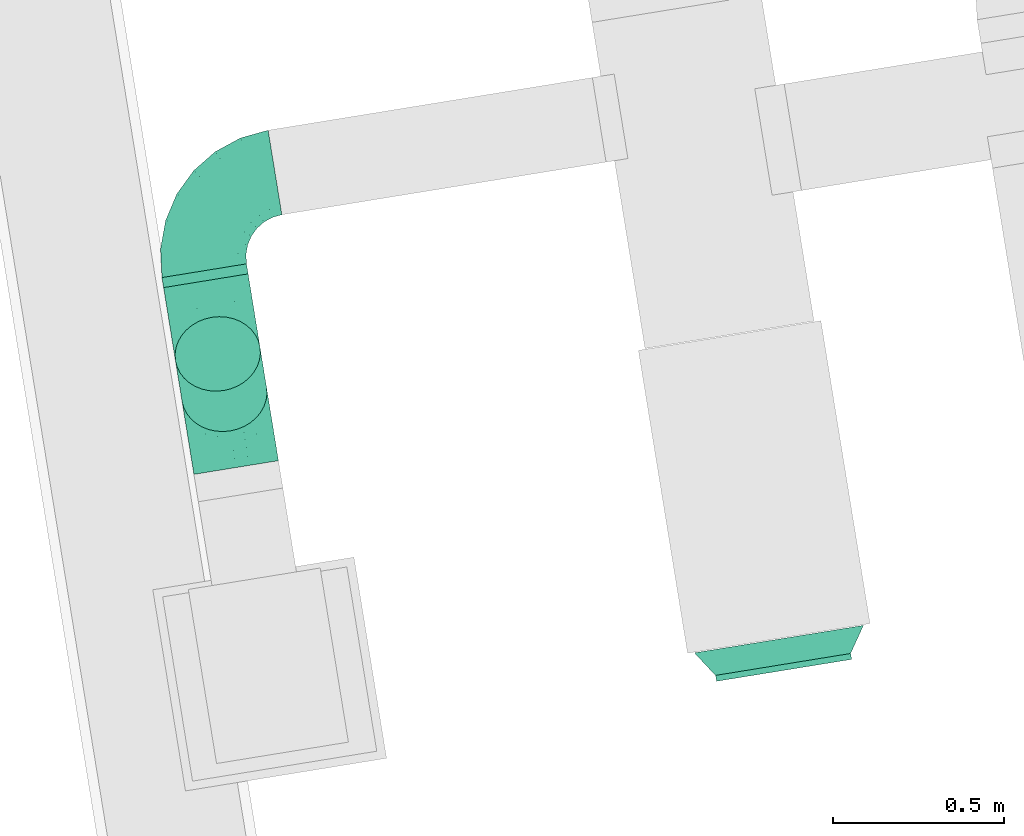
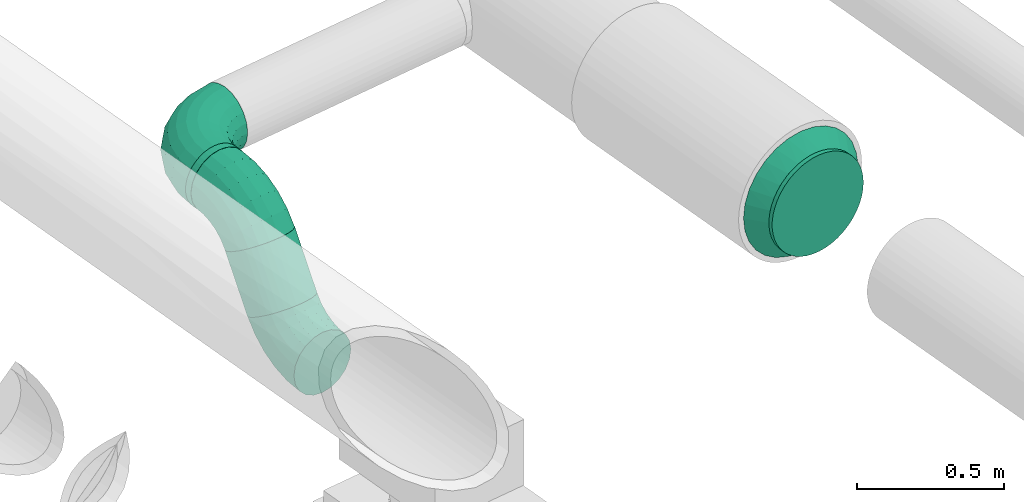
# One storey, part 21 of 39: 4 flow fittings, 3 flow segments.
"""IFC2X3 building model written with IfcOpenShell, lengths in millimetres."""

from ifc_helpers import new_model, entity, si_unit, converted_unit, derived_unit, direction, frame, frame_2d, origin, origin_with_axes, origin_2d_with_axis, place, context, subcontext, project, spatial, circle, extrude, faceted_brep, source, transform, mapped, material, type_object, element, save


model = new_model("IFC2X3")

# Units and contexts
plan_context = context("Plan", 3, precision=1e-05, world=origin_with_axes())
model_context = context("Model", 3, precision=0.01, world=origin(), true_north=direction((6.12323399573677e-17, 1.0)))
body_context = subcontext(model_context, "Body", "Model", "MODEL_VIEW")
ifc_project = project(units=[converted_unit("PLANEANGLEUNIT", "DEGREE", entity("IfcPositiveLengthMeasure", 0.0174532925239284), si_unit("PLANEANGLEUNIT", "RADIAN"), dimensions=[0, 0, 0, 0, 0, 0, 0]), si_unit("AREAUNIT", "SQUARE_METRE"), si_unit("LENGTHUNIT", "METRE", prefix="MILLI"), si_unit("MASSUNIT", "GRAM", prefix="KILO"), si_unit("POWERUNIT", "WATT"), si_unit("PRESSUREUNIT", "PASCAL", prefix="KILO"), si_unit("FORCEUNIT", "NEWTON", prefix="KILO"), si_unit("ELECTRICVOLTAGEUNIT", "VOLT"), si_unit("ELECTRICCURRENTUNIT", "AMPERE"), si_unit("THERMODYNAMICTEMPERATUREUNIT", "DEGREE_CELSIUS"), si_unit("TIMEUNIT", "SECOND"), si_unit("VOLUMEUNIT", "CUBIC_METRE"), derived_unit("LINEARVELOCITYUNIT", [(si_unit("LENGTHUNIT", "METRE"), 1), (si_unit("TIMEUNIT", "SECOND"), -1)]), derived_unit("VOLUMETRICFLOWRATEUNIT", [(si_unit("VOLUMEUNIT", "CUBIC_METRE"), 1), (si_unit("TIMEUNIT", "SECOND"), -1)]), derived_unit("THERMALTRANSMITTANCEUNIT", [(si_unit("POWERUNIT", "WATT"), 1), (si_unit("THERMODYNAMICTEMPERATUREUNIT", "KELVIN"), -1), (si_unit("AREAUNIT", "SQUARE_METRE"), -1)]), derived_unit("SOUNDPRESSUREUNIT", [(si_unit("PRESSUREUNIT", "PASCAL"), 1)])], contexts=[model_context, plan_context])

# Site, building, storey
site_placement = place(None, frame((-0.00071070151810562, 0.00438415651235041, 0.0), z_axis=(0.0, 0.0, 1.0), x_axis=(-0.160236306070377, 0.987078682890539, 0.0)))
site = spatial("IfcSite", under=ifc_project, at=site_placement, Name="Default", CompositionType="ELEMENT")
building_placement = place(site_placement, origin_with_axes())
building = spatial("IfcBuilding", under=site, at=building_placement, CompositionType="ELEMENT")
storey_placement = place(building_placement, frame((0.0, 0.0, 58999.9999999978), z_axis=(0.0, 0.0, 1.0), x_axis=(1.0, 0.0, 0.0)))
storey = spatial("IfcBuildingStorey", under=building, at=storey_placement, Name="Nivå F", CompositionType="ELEMENT", Elevation=58999.9999999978)

# Flow fittings
ifc_material_1 = material(Name="<Unnamed>")
duct_fitting_type_1 = type_object("IfcDuctFittingType", Name="magicirc_elbow_full_radius_1:magicirc_elbow_full_radius_001", PredefinedType="NOTDEFINED", material=ifc_material_1)
shared_shape_1 = source(origin(), body_context, "Body", "Brep", [
    faceted_brep([(-166.554649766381, -115.597967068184, 0.0), (-167.916018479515, -109.633421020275, 38.6271242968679), (-250.0, -118.882064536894, 38.6271242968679), (-250.0, -125.0, 0.0), (-171.866864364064, -92.3236342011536, 73.4731565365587), (-250.0, -101.127124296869, 73.4731565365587), (-178.020451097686, -65.363009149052, 101.127124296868), (-250.0, -73.4731565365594, 101.127124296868), (-185.774422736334, -31.3906396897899, 118.882064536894), (-250.0, -38.6271242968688, 118.882064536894), (-194.36976651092, 6.26802195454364, 125.0), (-250.0, 0.0, 125.0), (-202.965110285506, 43.9266835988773, 118.882064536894), (-250.0, 38.6271242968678, 118.882064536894), (-210.719081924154, 77.8990530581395, 101.127124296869), (-250.0, 73.4731565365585, 101.127124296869), (-216.872668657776, 104.859678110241, 73.4731565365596), (-250.0, 101.127124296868, 73.4731565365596), (-220.823514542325, 122.169464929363, 38.6271242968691), (-250.0, 118.882064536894, 38.6271242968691), (-222.18488325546, 128.134010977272, 0.0), (-250.0, 125.0, 0.0), (-220.823514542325, 122.169464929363, -38.6271242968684), (-250.0, 118.882064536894, -38.6271242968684), (-216.872668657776, 104.859678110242, -73.473156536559), (-250.0, 101.127124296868, -73.473156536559), (-210.719081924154, 77.8990530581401, -101.127124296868), (-250.0, 73.4731565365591, -101.127124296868), (-202.965110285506, 43.926683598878, -118.882064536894), (-250.0, 38.6271242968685, -118.882064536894), (-194.36976651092, 6.26802195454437, -125.0), (-250.0, 0.0, -125.0), (-185.774422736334, -31.3906396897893, -118.882064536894), (-250.0, -38.6271242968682, -118.882064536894), (-178.020451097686, -65.3630091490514, -101.127124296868), (-250.0, -73.4731565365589, -101.127124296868), (-171.866864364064, -92.3236342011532, -73.4731565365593), (-250.0, -101.127124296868, -73.4731565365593), (-167.916018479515, -109.633421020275, -38.6271242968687), (-250.0, -118.882064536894, -38.6271242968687), (-87.2935978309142, -87.8633254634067, 0.0), (-89.9480705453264, -82.3512560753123, 38.6271242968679), (-97.6516504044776, -66.3546076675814, 73.4731565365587), (-109.650257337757, -41.4392436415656, 101.127124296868), (-124.769384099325, -10.0440534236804, 118.882064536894), (-141.529065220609, 24.7577830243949, 125.0), (-158.288746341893, 59.5596194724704, 118.882064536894), (-173.407873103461, 90.9548096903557, 101.127124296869), (-185.406480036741, 115.870173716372, 73.4731565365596), (-193.110059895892, 131.866822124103, 38.6271242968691), (-195.764532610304, 137.378891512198, 0.0), (-193.110059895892, 131.866822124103, -38.6271242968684), (-185.406480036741, 115.870173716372, -73.473156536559), (-173.407873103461, 90.9548096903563, -101.127124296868), (-158.288746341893, 59.5596194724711, -118.882064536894), (-141.529065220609, 24.7577830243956, -125.0), (-124.769384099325, -10.0440534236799, -118.882064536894), (-109.650257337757, -41.4392436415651, -101.127124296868), (-97.6516504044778, -66.354607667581, -73.4731565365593), (-89.9480705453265, -82.3512560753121, -38.6271242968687), (-16.1913243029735, -43.1868059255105, 0.0), (-20.0057946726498, -38.4036113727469, 38.6271242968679), (-31.0758188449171, -24.5222401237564, 73.4731565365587), (-48.3177857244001, -2.90149751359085, 101.127124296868), (-70.0439314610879, 24.3422275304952, 118.882064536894), (-94.127549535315, 54.5421293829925, 125.0), (-118.211167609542, 84.7420312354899, 118.882064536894), (-139.93731334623, 111.985756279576, 101.127124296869), (-157.179280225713, 133.606498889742, 73.4731565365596), (-168.249304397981, 147.487870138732, 38.6271242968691), (-172.063774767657, 152.271064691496, 0.0), (-168.249304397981, 147.487870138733, -38.6271242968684), (-157.179280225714, 133.606498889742, -73.473156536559), (-139.937313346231, 111.985756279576, -101.127124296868), (-118.211167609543, 84.7420312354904, -118.882064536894), (-94.1275495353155, 54.5421293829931, -125.0), (-70.0439314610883, 24.3422275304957, -118.882064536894), (-48.3177857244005, -2.9014975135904, -101.127124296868), (-31.0758188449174, -24.5222401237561, -73.4731565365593), (-20.00579467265, -38.4036113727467, -38.6271242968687), (43.1868059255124, 16.1913243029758, 0.0), (38.4036113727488, 20.005794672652, 38.6271242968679), (24.5222401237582, 31.0758188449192, 73.4731565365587), (2.9014975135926, 48.3177857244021, 101.127124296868), (-24.3422275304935, 70.0439314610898, 118.882064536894), (-54.5421293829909, 94.1275495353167, 125.0), (-84.7420312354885, 118.211167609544, 118.882064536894), (-111.985756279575, 139.937313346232, 101.127124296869), (-133.60649888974, 157.179280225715, 73.4731565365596), (-147.487870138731, 168.249304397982, 38.6271242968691), (-152.271064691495, 172.063774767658, 0.0), (-147.487870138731, 168.249304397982, -38.6271242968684), (-133.606498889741, 157.179280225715, -73.473156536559), (-111.985756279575, 139.937313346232, -101.127124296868), (-84.742031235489, 118.211167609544, -118.882064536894), (-54.5421293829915, 94.1275495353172, -125.0), (-24.342227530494, 70.0439314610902, -118.882064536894), (2.90149751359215, 48.3177857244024, -101.127124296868), (24.5222401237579, 31.0758188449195, -73.4731565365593), (38.4036113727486, 20.0057946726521, -38.6271242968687), (87.8633254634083, 87.2935978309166, 0.0), (82.3512560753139, 89.9480705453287, 38.6271242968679), (66.3546076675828, 97.6516504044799, 73.4731565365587), (41.4392436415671, 109.650257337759, 101.127124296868), (10.0440534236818, 124.769384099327, 118.882064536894), (-24.7577830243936, 141.529065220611, 125.0), (-59.5596194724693, 158.288746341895, 118.882064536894), (-90.9548096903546, 173.407873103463, 101.127124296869), (-115.870173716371, 185.406480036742, 73.4731565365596), (-131.866822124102, 193.110059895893, 38.6271242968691), (-137.378891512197, 195.764532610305, 0.0), (-131.866822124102, 193.110059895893, -38.6271242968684), (-115.870173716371, 185.406480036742, -73.473156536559), (-90.9548096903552, 173.407873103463, -101.127124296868), (-59.5596194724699, 158.288746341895, -118.882064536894), (-24.7577830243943, 141.529065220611, -125.0), (10.0440534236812, 124.769384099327, -118.882064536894), (41.4392436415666, 109.650257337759, -101.127124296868), (66.3546076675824, 97.65165040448, -73.4731565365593), (82.3512560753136, 89.9480705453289, -38.6271242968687), (115.597967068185, 166.554649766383, 0.0), (109.633421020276, 167.916018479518, 38.6271242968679), (92.3236342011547, 171.866864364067, 73.4731565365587), (65.3630091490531, 178.020451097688, 101.127124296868), (31.390639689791, 185.774422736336, 118.882064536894), (-6.26802195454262, 194.369766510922, 125.0), (-43.9266835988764, 202.965110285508, 118.882064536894), (-77.8990530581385, 210.719081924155, 101.127124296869), (-104.85967811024, 216.872668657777, 73.4731565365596), (-122.169464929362, 220.823514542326, 38.6271242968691), (-128.134010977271, 222.184883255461, 0.0), (-122.169464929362, 220.823514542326, -38.6271242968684), (-104.859678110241, 216.872668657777, -73.473156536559), (-77.8990530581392, 210.719081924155, -101.127124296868), (-43.926683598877, 202.965110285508, -118.882064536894), (-6.26802195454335, 194.369766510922, -125.0), (31.3906396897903, 185.774422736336, -118.882064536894), (65.3630091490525, 178.020451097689, -101.127124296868), (92.3236342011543, 171.866864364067, -73.4731565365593), (109.633421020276, 167.916018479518, -38.6271242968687), (125.0, 250.0, 0.0), (118.882064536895, 250.0, 38.6271242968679), (101.127124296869, 250.0, 73.4731565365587), (73.4731565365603, 250.0, 101.127124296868), (38.6271242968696, 250.0, 118.882064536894), (0.0, 250.0, 125.0), (-38.627124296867, 250.0, 118.882064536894), (-73.4731565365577, 250.0, 101.127124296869), (-101.127124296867, 250.0, 73.4731565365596), (-118.882064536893, 250.0, 38.6271242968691), (-125.0, 250.0, 0.0), (-118.882064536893, 250.0, -38.6271242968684), (-101.127124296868, 250.0, -73.473156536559), (-73.4731565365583, 250.0, -101.127124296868), (-38.6271242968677, 250.0, -118.882064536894), (0.0, 250.0, -125.0), (38.627124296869, 250.0, -118.882064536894), (73.4731565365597, 250.0, -101.127124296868), (101.127124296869, 250.0, -73.4731565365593), (118.882064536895, 250.0, -38.6271242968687)], [[[0, 1, 2, 3]], [[1, 4, 5, 2]], [[4, 6, 7, 5]], [[6, 8, 9, 7]], [[8, 10, 11, 9]], [[10, 12, 13, 11]], [[12, 14, 15, 13]], [[14, 16, 17, 15]], [[16, 18, 19, 17]], [[18, 20, 21, 19]], [[20, 22, 23, 21]], [[22, 24, 25, 23]], [[24, 26, 27, 25]], [[26, 28, 29, 27]], [[28, 30, 31, 29]], [[30, 32, 33, 31]], [[32, 34, 35, 33]], [[34, 36, 37, 35]], [[36, 38, 39, 37]], [[38, 0, 3, 39]], [[40, 41, 1, 0]], [[41, 42, 4, 1]], [[42, 43, 6, 4]], [[43, 44, 8, 6]], [[44, 45, 10, 8]], [[45, 46, 12, 10]], [[46, 47, 14, 12]], [[47, 48, 16, 14]], [[48, 49, 18, 16]], [[49, 50, 20, 18]], [[50, 51, 22, 20]], [[51, 52, 24, 22]], [[52, 53, 26, 24]], [[53, 54, 28, 26]], [[54, 55, 30, 28]], [[55, 56, 32, 30]], [[56, 57, 34, 32]], [[57, 58, 36, 34]], [[58, 59, 38, 36]], [[59, 40, 0, 38]], [[60, 61, 41, 40]], [[61, 62, 42, 41]], [[62, 63, 43, 42]], [[63, 64, 44, 43]], [[64, 65, 45, 44]], [[65, 66, 46, 45]], [[66, 67, 47, 46]], [[67, 68, 48, 47]], [[68, 69, 49, 48]], [[69, 70, 50, 49]], [[70, 71, 51, 50]], [[71, 72, 52, 51]], [[72, 73, 53, 52]], [[73, 74, 54, 53]], [[74, 75, 55, 54]], [[75, 76, 56, 55]], [[76, 77, 57, 56]], [[77, 78, 58, 57]], [[78, 79, 59, 58]], [[79, 60, 40, 59]], [[80, 81, 61, 60]], [[81, 82, 62, 61]], [[82, 83, 63, 62]], [[83, 84, 64, 63]], [[84, 85, 65, 64]], [[85, 86, 66, 65]], [[86, 87, 67, 66]], [[87, 88, 68, 67]], [[88, 89, 69, 68]], [[89, 90, 70, 69]], [[90, 91, 71, 70]], [[91, 92, 72, 71]], [[92, 93, 73, 72]], [[93, 94, 74, 73]], [[94, 95, 75, 74]], [[95, 96, 76, 75]], [[96, 97, 77, 76]], [[97, 98, 78, 77]], [[98, 99, 79, 78]], [[99, 80, 60, 79]], [[100, 101, 81, 80]], [[101, 102, 82, 81]], [[102, 103, 83, 82]], [[103, 104, 84, 83]], [[104, 105, 85, 84]], [[105, 106, 86, 85]], [[106, 107, 87, 86]], [[107, 108, 88, 87]], [[108, 109, 89, 88]], [[109, 110, 90, 89]], [[110, 111, 91, 90]], [[111, 112, 92, 91]], [[112, 113, 93, 92]], [[113, 114, 94, 93]], [[114, 115, 95, 94]], [[115, 116, 96, 95]], [[116, 117, 97, 96]], [[117, 118, 98, 97]], [[118, 119, 99, 98]], [[119, 100, 80, 99]], [[120, 121, 101, 100]], [[121, 122, 102, 101]], [[122, 123, 103, 102]], [[123, 124, 104, 103]], [[124, 125, 105, 104]], [[125, 126, 106, 105]], [[126, 127, 107, 106]], [[127, 128, 108, 107]], [[128, 129, 109, 108]], [[129, 130, 110, 109]], [[130, 131, 111, 110]], [[131, 132, 112, 111]], [[132, 133, 113, 112]], [[133, 134, 114, 113]], [[134, 135, 115, 114]], [[135, 136, 116, 115]], [[136, 137, 117, 116]], [[137, 138, 118, 117]], [[138, 139, 119, 118]], [[139, 120, 100, 119]], [[140, 141, 121, 120]], [[141, 142, 122, 121]], [[142, 143, 123, 122]], [[143, 144, 124, 123]], [[144, 145, 125, 124]], [[145, 146, 126, 125]], [[146, 147, 127, 126]], [[147, 148, 128, 127]], [[148, 149, 129, 128]], [[149, 150, 130, 129]], [[150, 151, 131, 130]], [[151, 152, 132, 131]], [[152, 153, 133, 132]], [[153, 154, 134, 133]], [[154, 155, 135, 134]], [[155, 156, 136, 135]], [[156, 157, 137, 136]], [[157, 158, 138, 137]], [[158, 159, 139, 138]], [[159, 140, 120, 139]], [[3, 2, 5, 7, 9, 11, 13, 15, 17, 19, 21, 23, 25, 27, 29, 31, 33, 35, 37, 39]], [[159, 158, 157, 156, 155, 154, 153, 152, 151, 150, 149, 148, 147, 146, 145, 144, 143, 142, 141, 140]]]),
])
flow_fitting_1_placement = place(storey_placement, frame((778138.293172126, -503645.980498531, 3130.0), z_axis=(0.0, 0.0, 1.0), x_axis=(0.0, 1.0, 0.0)))
element("IfcFlowFitting", 1, at=flow_fitting_1_placement, inside=storey, type_object=duct_fitting_type_1, material=ifc_material_1, Name="magicirc_elbow_full_radius_1:magicirc_elbow_full_radius_001", ObjectType="magicirc_elbow_full_radius_1:magicirc_elbow_full_radius_001", context=body_context, shape_type="MappedRepresentation", body=[
    mapped(shared_shape_1, transform((0.0, 0.0, 0.0), scale=1.0)),
])
duct_fitting_type_2 = type_object("IfcDuctFittingType", Name="magicirc_elbow_full_radius_1:magicirc_elbow_full_radius_001", PredefinedType="NOTDEFINED", material=ifc_material_1)
shared_shape_2 = source(origin(), body_context, "Body", "Brep", [
    faceted_brep([(-66.3706832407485, -116.805350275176, 0.0), (-67.6426735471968, -110.821106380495, 38.627124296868), (-144.337567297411, -118.882064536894, 38.627124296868), (-144.337567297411, -125.0, 0.0), (-71.334133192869, -93.4541541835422, 73.4731565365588), (-144.337567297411, -101.127124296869, 73.4731565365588), (-77.0837163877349, -66.4044919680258, 101.127124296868), (-144.337567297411, -73.4731565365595, 101.127124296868), (-84.3286138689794, -32.3199291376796, 118.882064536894), (-144.337567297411, -38.6271242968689, 118.882064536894), (-92.3596445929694, 5.46309981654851, 125.0), (-144.337567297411, 0.0, 125.0), (-100.390675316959, 43.2461287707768, 118.882064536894), (-144.337567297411, 38.6271242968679, 118.882064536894), (-107.635572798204, 77.330691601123, 101.127124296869), (-144.337567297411, 73.4731565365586, 101.127124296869), (-113.38515599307, 104.38035381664, 73.4731565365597), (-144.337567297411, 101.127124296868, 73.4731565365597), (-117.076615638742, 121.747306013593, 38.6271242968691), (-144.337567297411, 118.882064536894, 38.6271242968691), (-118.348605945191, 127.731549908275, 0.0), (-144.337567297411, 125.0, 0.0), (-117.076615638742, 121.747306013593, -38.6271242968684), (-144.337567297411, 118.882064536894, -38.6271242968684), (-113.38515599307, 104.38035381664, -73.4731565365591), (-144.337567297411, 101.127124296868, -73.4731565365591), (-107.635572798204, 77.3306916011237, -101.127124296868), (-144.337567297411, 73.4731565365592, -101.127124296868), (-100.39067531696, 43.2461287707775, -118.882064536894), (-144.337567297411, 38.6271242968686, -118.882064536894), (-92.3596445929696, 5.46309981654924, -125.0), (-144.337567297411, 0.0, -125.0), (-84.3286138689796, -32.319929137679, -118.882064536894), (-144.337567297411, -38.6271242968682, -118.882064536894), (-77.083716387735, -66.4044919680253, -101.127124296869), (-144.337567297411, -73.4731565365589, -101.127124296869), (-71.3341331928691, -93.4541541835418, -73.4731565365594), (-144.337567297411, -101.127124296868, -73.4731565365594), (-67.6426735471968, -110.821106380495, -38.6271242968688), (-144.337567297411, -118.882064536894, -38.6271242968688), (8.18867385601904, -92.5795466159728, 0.0), (5.70028532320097, -86.9905344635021, 38.627124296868), (-1.52129946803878, -70.770589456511, 73.4731565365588), (-12.7691814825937, -45.5074328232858, 101.127124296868), (-26.9423396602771, -13.673998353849, 118.882064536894), (-42.6534065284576, 21.613635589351, 125.0), (-58.3644733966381, 56.901269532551, 118.882064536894), (-72.5376315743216, 88.7347040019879, 101.127124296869), (-83.7855135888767, 113.997860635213, 73.4731565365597), (-91.0070983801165, 130.217805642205, 38.6271242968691), (-93.4954869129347, 135.806817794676, 0.0), (-91.0070983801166, 130.217805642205, -38.6271242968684), (-83.7855135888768, 113.997860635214, -73.4731565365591), (-72.5376315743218, 88.7347040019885, -101.127124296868), (-58.3644733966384, 56.9012695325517, -118.882064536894), (-42.6534065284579, 21.6136355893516, -125.0), (-26.9423396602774, -13.6739983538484, -118.882064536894), (-12.769181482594, -45.5074328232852, -101.127124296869), (-1.52129946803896, -70.7705894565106, -73.4731565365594), (5.70028532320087, -86.9905344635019, -38.6271242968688), (76.0819023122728, -53.3813728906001, 0.0), (72.4858700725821, -48.4318591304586, 38.627124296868), (62.0497780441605, -34.0678107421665, 73.4731565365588), (45.7951836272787, -11.6952808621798, 101.127124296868), (25.3131997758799, 16.4957514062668, 118.882064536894), (2.6087457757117, 47.7457514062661, 125.0), (-20.0957082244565, 78.9957514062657, 118.882064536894), (-40.5776920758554, 107.186783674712, 101.127124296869), (-56.8322864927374, 129.559313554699, 73.4731565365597), (-67.2683785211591, 143.923361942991, 38.6271242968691), (-70.8644107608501, 148.872875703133, 0.0), (-67.2683785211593, 143.923361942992, -38.6271242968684), (-56.8322864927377, 129.5593135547, -73.4731565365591), (-40.5776920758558, 107.186783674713, -101.127124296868), (-20.0957082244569, 78.9957514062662, -118.882064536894), (2.60874577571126, 47.7457514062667, -125.0), (25.3131997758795, 16.4957514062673, -118.882064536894), (45.7951836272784, -11.6952808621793, -101.127124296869), (62.0497780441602, -34.0678107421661, -73.4731565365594), (72.4858700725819, -48.4318591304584, -38.6271242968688), (134.341742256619, -0.923977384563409, 0.0), (129.795230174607, 3.16972048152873, 38.627124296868), (116.600738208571, 15.050094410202, 73.4731565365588), (96.0498351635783, 33.5542106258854, 101.127124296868), (70.154186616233, 56.8707573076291, 118.882064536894), (41.4486390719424, 82.7173484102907, 125.0), (12.7430915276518, 108.563939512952, 118.882064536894), (-13.1525570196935, 131.880486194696, 101.127124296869), (-33.7034600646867, 150.38460241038, 73.4731565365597), (-46.8979520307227, 162.264976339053, 38.6271242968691), (-51.4444641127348, 166.358674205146, 0.0), (-46.8979520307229, 162.264976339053, -38.6271242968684), (-33.7034600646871, 150.38460241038, -73.4731565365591), (-13.152557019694, 131.880486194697, -101.127124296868), (12.7430915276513, 108.563939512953, -118.882064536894), (41.4486390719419, 82.7173484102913, -125.0), (70.1541866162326, 56.8707573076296, -118.882064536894), (96.0498351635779, 33.5542106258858, -101.127124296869), (116.600738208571, 15.0500944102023, -73.4731565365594), (129.795230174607, 3.1697204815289, -38.6271242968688), (180.42195912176, 62.5000000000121, 0.0), (175.123671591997, 65.5589677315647, 38.627124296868), (159.747442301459, 74.436437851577, 73.4731565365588), (135.798403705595, 88.2634217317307, 101.127124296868), (105.620854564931, 105.686437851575, 118.882064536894), (72.1687836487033, 125.0, 125.0), (38.7167127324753, 144.313562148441, 118.882064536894), (8.53916359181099, 161.736578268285, 101.127124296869), (-15.4098750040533, 175.563562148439, 73.4731565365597), (-30.7861042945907, 184.441032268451, 38.6271242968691), (-36.0843918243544, 187.500000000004, 0.0), (-30.7861042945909, 184.441032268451, -38.6271242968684), (-15.4098750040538, 175.563562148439, -73.4731565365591), (8.53916359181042, 161.736578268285, -101.127124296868), (38.7167127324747, 144.313562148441, -118.882064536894), (72.1687836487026, 125.0, -125.0), (105.62085456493, 105.686437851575, -118.882064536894), (135.798403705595, 88.263421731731, -101.127124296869), (159.747442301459, 74.4364378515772, -73.4731565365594), (175.123671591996, 65.5589677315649, -38.6271242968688)], [[[0, 1, 2, 3]], [[1, 4, 5, 2]], [[4, 6, 7, 5]], [[6, 8, 9, 7]], [[8, 10, 11, 9]], [[10, 12, 13, 11]], [[12, 14, 15, 13]], [[14, 16, 17, 15]], [[16, 18, 19, 17]], [[18, 20, 21, 19]], [[20, 22, 23, 21]], [[22, 24, 25, 23]], [[24, 26, 27, 25]], [[26, 28, 29, 27]], [[28, 30, 31, 29]], [[30, 32, 33, 31]], [[32, 34, 35, 33]], [[34, 36, 37, 35]], [[36, 38, 39, 37]], [[38, 0, 3, 39]], [[40, 41, 1, 0]], [[41, 42, 4, 1]], [[42, 43, 6, 4]], [[43, 44, 8, 6]], [[44, 45, 10, 8]], [[45, 46, 12, 10]], [[46, 47, 14, 12]], [[47, 48, 16, 14]], [[48, 49, 18, 16]], [[49, 50, 20, 18]], [[50, 51, 22, 20]], [[51, 52, 24, 22]], [[52, 53, 26, 24]], [[53, 54, 28, 26]], [[54, 55, 30, 28]], [[55, 56, 32, 30]], [[56, 57, 34, 32]], [[57, 58, 36, 34]], [[58, 59, 38, 36]], [[59, 40, 0, 38]], [[60, 61, 41, 40]], [[61, 62, 42, 41]], [[62, 63, 43, 42]], [[63, 64, 44, 43]], [[64, 65, 45, 44]], [[65, 66, 46, 45]], [[66, 67, 47, 46]], [[67, 68, 48, 47]], [[68, 69, 49, 48]], [[69, 70, 50, 49]], [[70, 71, 51, 50]], [[71, 72, 52, 51]], [[72, 73, 53, 52]], [[73, 74, 54, 53]], [[74, 75, 55, 54]], [[75, 76, 56, 55]], [[76, 77, 57, 56]], [[77, 78, 58, 57]], [[78, 79, 59, 58]], [[79, 60, 40, 59]], [[80, 81, 61, 60]], [[81, 82, 62, 61]], [[82, 83, 63, 62]], [[83, 84, 64, 63]], [[84, 85, 65, 64]], [[85, 86, 66, 65]], [[86, 87, 67, 66]], [[87, 88, 68, 67]], [[88, 89, 69, 68]], [[89, 90, 70, 69]], [[90, 91, 71, 70]], [[91, 92, 72, 71]], [[92, 93, 73, 72]], [[93, 94, 74, 73]], [[94, 95, 75, 74]], [[95, 96, 76, 75]], [[96, 97, 77, 76]], [[97, 98, 78, 77]], [[98, 99, 79, 78]], [[99, 80, 60, 79]], [[100, 101, 81, 80]], [[101, 102, 82, 81]], [[102, 103, 83, 82]], [[103, 104, 84, 83]], [[104, 105, 85, 84]], [[105, 106, 86, 85]], [[106, 107, 87, 86]], [[107, 108, 88, 87]], [[108, 109, 89, 88]], [[109, 110, 90, 89]], [[110, 111, 91, 90]], [[111, 112, 92, 91]], [[112, 113, 93, 92]], [[113, 114, 94, 93]], [[114, 115, 95, 94]], [[115, 116, 96, 95]], [[116, 117, 97, 96]], [[117, 118, 98, 97]], [[118, 119, 99, 98]], [[119, 100, 80, 99]], [[3, 2, 5, 7, 9, 11, 13, 15, 17, 19, 21, 23, 25, 27, 29, 31, 33, 35, 37, 39]], [[119, 118, 117, 116, 115, 114, 113, 112, 111, 110, 109, 108, 107, 106, 105, 104, 103, 102, 101, 100]]]),
])
for number, where, z_axis, x_axis, name in (
    (2, (777714.282839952, -503645.980498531, 3130.0), (-2.40370335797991e-17, 1.0, 1.38777878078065e-17), (0.499999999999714, 0.0, 0.866025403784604), "magicirc_elbow_full_radius_1:magicirc_elbow_full_radius_001"),
    (3, (777450.433766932, -503645.980498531, 2673.0), (0.0, -1.0, 0.0), (1.0, 0.0, 0.0), "magicirc_elbow_full_radius_1:magicirc_elbow_full_radius_001"),
):
    element("IfcFlowFitting", number, at=place(storey_placement, frame(where, z_axis=z_axis, x_axis=x_axis)), inside=storey, type_object=duct_fitting_type_2, material=ifc_material_1, Name=name, ObjectType="magicirc_elbow_full_radius_1:magicirc_elbow_full_radius_001", context=body_context, shape_type="MappedRepresentation", body=[
        mapped(shared_shape_2, transform((0.0, 0.0, 0.0), scale=1.0)),
    ])
ifc_material_2 = material(Name="Material_Duct")
duct_fitting_type_3 = type_object("IfcDuctFittingType", Name="magicirc_reduction_001:magicirc_reduction_001", PredefinedType="NOTDEFINED", material=ifc_material_2)
shared_shape_3 = source(origin(), body_context, "Body", "Brep", [
    faceted_brep([(75.0, -200.0, 0.0), (75.0, -194.188363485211, -47.8631328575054), (75.0, -177.091205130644, -92.9446344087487), (75.0, -149.702149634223, -132.624531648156), (75.0, -113.612949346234, -164.596773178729), (75.0, -70.9209774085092, -187.003248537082), (75.0, -24.1073360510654, -198.541774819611), (75.0, 24.1073360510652, -198.541774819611), (75.0, 70.9209774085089, -187.003248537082), (75.0, 113.612949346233, -164.596773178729), (75.0, 149.702149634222, -132.624531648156), (75.0, 177.091205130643, -92.9446344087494), (75.0, 194.18836348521, -47.8631328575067), (75.0, 200.0, 0.0), (75.0, 194.18836348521, 47.863132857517), (75.0, 177.09120513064, 92.944634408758), (75.0, 149.702149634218, 132.624531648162), (75.0, 113.612949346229, 164.596773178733), (75.0, 70.9209774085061, 187.003248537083), (75.0, 24.1073360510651, 198.54177481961), (75.0, -24.1073360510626, 198.541774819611), (75.0, -70.920977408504, 187.003248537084), (75.0, -113.612949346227, 164.596773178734), (75.0, -149.702149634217, 132.624531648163), (75.0, -177.09120513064, 92.9446344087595), (75.0, -194.18836348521, 47.8631328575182), (0.0, 250.0, 0.0), (0.0, 243.731978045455, -55.6302334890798), (0.0, 225.242216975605, -108.470934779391), (0.0, 195.457870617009, -155.872450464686), (0.0, 155.872450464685, -195.457870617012), (0.0, 108.470934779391, -225.242216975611), (0.0, 55.6302334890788, -243.731978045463), (0.0, 0.0, -250.0), (0.0, -55.6302334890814, -243.731978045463), (0.0, -108.470934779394, -225.242216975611), (0.0, -155.872450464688, -195.457870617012), (0.0, -195.457870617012, -155.872450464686), (0.0, -225.242216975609, -108.47093477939), (0.0, -243.731978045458, -55.6302334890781), (0.0, -250.0, 0.0), (0.0, -243.731978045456, 55.6302334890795), (0.0, -225.242216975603, 108.47093477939), (0.0, -195.457870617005, 155.872450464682), (0.0, -155.87245046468, 195.457870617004), (0.0, -108.470934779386, 225.242216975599), (0.0, -55.6302334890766, 243.731978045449), (0.0, 0.0, 250.0), (0.0, 55.6302334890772, 243.731978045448), (0.0, 108.470934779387, 225.242216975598), (0.0, 155.872450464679, 195.457870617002), (0.0, 195.457870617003, 155.87245046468), (0.0, 225.242216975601, 108.470934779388), (0.0, 243.731978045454, 55.6302334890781)], [[[0, 1, 2, 3, 4, 5, 6, 7, 8, 9, 10, 11, 12, 13, 14, 15, 16, 17, 18, 19, 20, 21, 22, 23, 24, 25]], [[26, 27, 28, 29, 30, 31, 32, 33, 34, 35, 36, 37, 38, 39, 40, 41, 42, 43, 44, 45, 46, 47, 48, 49, 50, 51, 52, 53]], [[12, 11, 28]], [[13, 12, 27]], [[8, 7, 32]], [[10, 9, 30]], [[8, 31, 9]], [[11, 10, 29]], [[12, 28, 27]], [[27, 26, 13]], [[30, 9, 31]], [[29, 10, 30]], [[29, 28, 11]], [[8, 32, 31]], [[7, 33, 32]], [[5, 4, 35]], [[6, 5, 34]], [[3, 2, 37]], [[1, 0, 39]], [[2, 1, 38]], [[4, 3, 36]], [[33, 6, 34]], [[35, 34, 5]], [[36, 35, 4]], [[3, 37, 36]], [[2, 38, 37]], [[39, 38, 1]], [[40, 39, 0]], [[6, 33, 7]], [[25, 24, 42]], [[0, 25, 41]], [[21, 20, 46]], [[23, 22, 44]], [[21, 45, 22]], [[24, 23, 43]], [[25, 42, 41]], [[41, 40, 0]], [[44, 22, 45]], [[43, 23, 44]], [[43, 42, 24]], [[21, 46, 45]], [[20, 47, 46]], [[18, 17, 49]], [[19, 18, 48]], [[16, 15, 51]], [[14, 13, 53]], [[15, 14, 52]], [[17, 16, 50]], [[47, 19, 48]], [[49, 48, 18]], [[50, 49, 17]], [[16, 51, 50]], [[15, 52, 51]], [[53, 52, 14]], [[26, 53, 13]], [[19, 47, 20]]]),
])
flow_fitting_2_placement = place(storey_placement, frame((776557.619644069, -505130.008615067, 3130.0), z_axis=(0.0, 0.0, 1.0), x_axis=(-1.0, 0.0, 0.0)))
element("IfcFlowFitting", 4, at=flow_fitting_2_placement, inside=storey, type_object=duct_fitting_type_3, material=ifc_material_2, Name="magicirc_reduction_001:magicirc_reduction_001", ObjectType="magicirc_reduction_001:magicirc_reduction_001", context=body_context, shape_type="MappedRepresentation", body=[
    mapped(shared_shape_3, transform((0.0, 0.0, 0.0), scale=1.0)),
])

# Flow segments
duct_segment_type = type_object("IfcDuctSegmentType", Name="Round Duct:KK001T - Spiro kanaler, Forsinket stål", PredefinedType="NOTDEFINED")
flow_segment_1_placement = place(storey_placement, origin_with_axes())
element("IfcFlowSegment", 5, at=flow_segment_1_placement, inside=storey, type_object=duct_segment_type, Name="Round Duct:KK001T - Spiro kanaler, Forsinket stål", ObjectType="Round Duct:KK001T - Spiro kanaler, Forsinket stål", context=body_context, shape_type="SweptSolid", body=[
    extrude(circle(Radius=200.0, at=origin_2d_with_axis()), frame((776465.119644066, -505130.008615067, 3130.0), z_axis=(1.0, 0.0, 0.0), x_axis=(0.0, -1.0, 0.0)), (0.0, 0.0, 1.0), 17.5000000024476),
])
flow_segment_2_placement = place(storey_placement, origin_with_axes())
element("IfcFlowSegment", 6, at=flow_segment_2_placement, inside=storey, type_object=duct_segment_type, Name="Round Duct:KK001T - Spiro kanaler, Forsinket stål", ObjectType="Round Duct:KK001T - Spiro kanaler, Forsinket stål", context=body_context, shape_type="SweptSolid", body=[
    extrude(circle(Radius=125.0, at=frame_2d((6.93034962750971e-11, 0.0), x_axis=(1.0, 0.0))), frame((777858.620407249, -503645.980498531, 3130.0), z_axis=(1.0, 0.0, 0.0), x_axis=(0.0, 1.0, 0.0)), (0.0, 0.0, 1.0), 29.6727648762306),
])
flow_segment_3_placement = place(storey_placement, origin_with_axes())
element("IfcFlowSegment", 7, at=flow_segment_3_placement, inside=storey, type_object=duct_segment_type, Name="Round Duct:KK001T - Spiro kanaler, Forsinket stål", ObjectType="Round Duct:KK001T - Spiro kanaler, Forsinket stål", context=body_context, shape_type="SweptSolid", body=[
    extrude(circle(Radius=125.0, at=frame_2d((6.93034962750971e-11, 1.07042771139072e-10), x_axis=(1.0, 0.0))), frame((777522.602550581, -503645.980498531, 2798.0), z_axis=(0.499999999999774, 0.0, 0.866025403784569), x_axis=(0.0, 1.0, 0.0)), (0.0, 0.0, 1.0), 239.023011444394),
])

save(model, "model.ifc")
